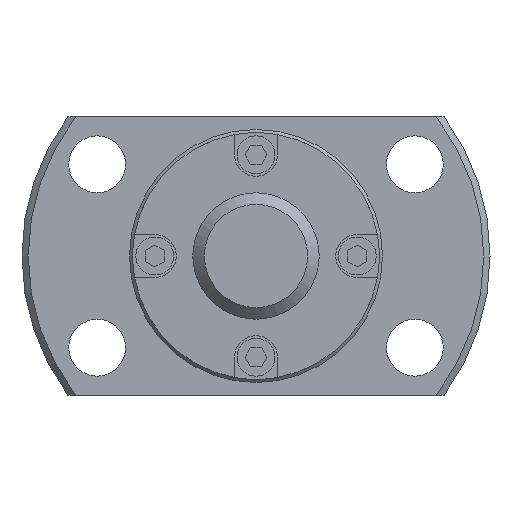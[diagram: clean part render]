
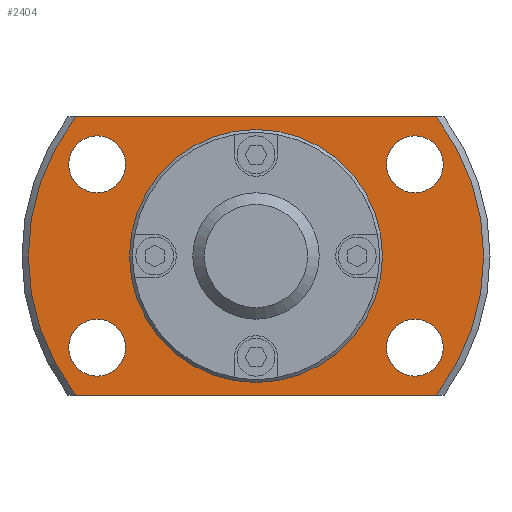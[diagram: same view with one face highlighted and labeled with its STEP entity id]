
A CAD part, left-side view. The second image highlights one B-rep face of the part: STEP entity #2404.
In plain terms, the highlighted planar face has unit normal (-1, 0, 0).
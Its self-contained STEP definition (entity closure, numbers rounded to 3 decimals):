
#134=LINE('',#3757,#360);
#135=LINE('',#3761,#361);
#360=VECTOR('',#3014,1000.);
#361=VECTOR('',#3017,1000.);
#672=ORIENTED_EDGE('',*,*,#1289,.F.);
#673=ORIENTED_EDGE('',*,*,#1290,.F.);
#674=ORIENTED_EDGE('',*,*,#1291,.F.);
#675=ORIENTED_EDGE('',*,*,#1292,.F.);
#676=ORIENTED_EDGE('',*,*,#1275,.F.);
#677=ORIENTED_EDGE('',*,*,#1293,.T.);
#678=ORIENTED_EDGE('',*,*,#1294,.F.);
#679=ORIENTED_EDGE('',*,*,#1295,.T.);
#680=ORIENTED_EDGE('',*,*,#1288,.T.);
#1275=EDGE_CURVE('',#1592,#1593,#1784,.T.);
#1288=EDGE_CURVE('',#1604,#1604,#1792,.T.);
#1289=EDGE_CURVE('',#1605,#1605,#1793,.F.);
#1290=EDGE_CURVE('',#1606,#1606,#1794,.F.);
#1291=EDGE_CURVE('',#1607,#1607,#1795,.F.);
#1292=EDGE_CURVE('',#1608,#1608,#1796,.F.);
#1293=EDGE_CURVE('',#1592,#1609,#134,.T.);
#1294=EDGE_CURVE('',#1610,#1609,#1797,.T.);
#1295=EDGE_CURVE('',#1610,#1593,#135,.T.);
#1592=VERTEX_POINT('',#3705);
#1593=VERTEX_POINT('',#3707);
#1604=VERTEX_POINT('',#3747);
#1605=VERTEX_POINT('',#3750);
#1606=VERTEX_POINT('',#3752);
#1607=VERTEX_POINT('',#3754);
#1608=VERTEX_POINT('',#3756);
#1609=VERTEX_POINT('',#3758);
#1610=VERTEX_POINT('',#3760);
#1784=CIRCLE('',#2610,18.);
#1792=CIRCLE('',#2625,9.75);
#1793=CIRCLE('',#2627,2.25);
#1794=CIRCLE('',#2628,2.25);
#1795=CIRCLE('',#2629,2.25);
#1796=CIRCLE('',#2630,2.25);
#1797=CIRCLE('',#2631,18.);
#1896=EDGE_LOOP('',(#672));
#1897=EDGE_LOOP('',(#673));
#1898=EDGE_LOOP('',(#674));
#1899=EDGE_LOOP('',(#675));
#1900=EDGE_LOOP('',(#676,#677,#678,#679));
#1901=EDGE_LOOP('',(#680));
#2108=FACE_BOUND('',#1896,.T.);
#2109=FACE_BOUND('',#1897,.T.);
#2110=FACE_BOUND('',#1898,.T.);
#2111=FACE_BOUND('',#1899,.T.);
#2112=FACE_BOUND('',#1900,.T.);
#2113=FACE_BOUND('',#1901,.T.);
#2281=PLANE('',#2626);
#2404=ADVANCED_FACE('',(#2108,#2109,#2110,#2111,#2112,#2113),#2281,.F.);
#2610=AXIS2_PLACEMENT_3D('',#3706,#2970,#2971);
#2625=AXIS2_PLACEMENT_3D('',#3746,#3002,#3003);
#2626=AXIS2_PLACEMENT_3D('',#3748,#3004,#3005);
#2627=AXIS2_PLACEMENT_3D('',#3749,#3006,#3007);
#2628=AXIS2_PLACEMENT_3D('',#3751,#3008,#3009);
#2629=AXIS2_PLACEMENT_3D('',#3753,#3010,#3011);
#2630=AXIS2_PLACEMENT_3D('',#3755,#3012,#3013);
#2631=AXIS2_PLACEMENT_3D('',#3759,#3015,#3016);
#2970=DIRECTION('',(1.,0.,0.));
#2971=DIRECTION('',(0.,0.,-1.));
#3002=DIRECTION('',(1.,0.,0.));
#3003=DIRECTION('',(0.,0.,-1.));
#3004=DIRECTION('',(1.,0.,0.));
#3005=DIRECTION('',(0.,0.,-1.));
#3006=DIRECTION('',(1.,0.,0.));
#3007=DIRECTION('',(0.,0.,-1.));
#3008=DIRECTION('',(1.,0.,0.));
#3009=DIRECTION('',(0.,0.,-1.));
#3010=DIRECTION('',(1.,0.,0.));
#3011=DIRECTION('',(0.,0.,-1.));
#3012=DIRECTION('',(1.,0.,0.));
#3013=DIRECTION('',(0.,0.,-1.));
#3014=DIRECTION('',(0.,-1.,0.));
#3015=DIRECTION('',(1.,0.,0.));
#3016=DIRECTION('',(0.,0.,-1.));
#3017=DIRECTION('',(0.,1.,0.));
#3705=CARTESIAN_POINT('',(13.,14.248,-11.));
#3706=CARTESIAN_POINT('',(13.,0.,0.));
#3707=CARTESIAN_POINT('',(13.,14.248,11.));
#3746=CARTESIAN_POINT('',(13.,0.,0.));
#3747=CARTESIAN_POINT('',(13.,0.,-9.75));
#3748=CARTESIAN_POINT('',(13.,9.75,0.));
#3749=CARTESIAN_POINT('',(13.,-12.557,-7.25));
#3750=CARTESIAN_POINT('',(13.,-12.557,-9.5));
#3751=CARTESIAN_POINT('',(13.,-12.557,7.25));
#3752=CARTESIAN_POINT('',(13.,-12.557,5.));
#3753=CARTESIAN_POINT('',(13.,12.557,-7.25));
#3754=CARTESIAN_POINT('',(13.,12.557,-9.5));
#3755=CARTESIAN_POINT('',(13.,12.557,7.25));
#3756=CARTESIAN_POINT('',(13.,12.557,5.));
#3757=CARTESIAN_POINT('',(13.,9.75,-11.));
#3758=CARTESIAN_POINT('',(13.,-14.248,-11.));
#3759=CARTESIAN_POINT('',(13.,0.,0.));
#3760=CARTESIAN_POINT('',(13.,-14.248,11.));
#3761=CARTESIAN_POINT('',(13.,9.75,11.));
